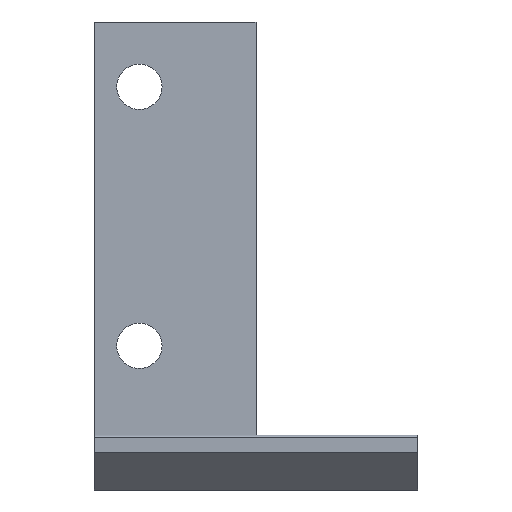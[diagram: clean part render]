
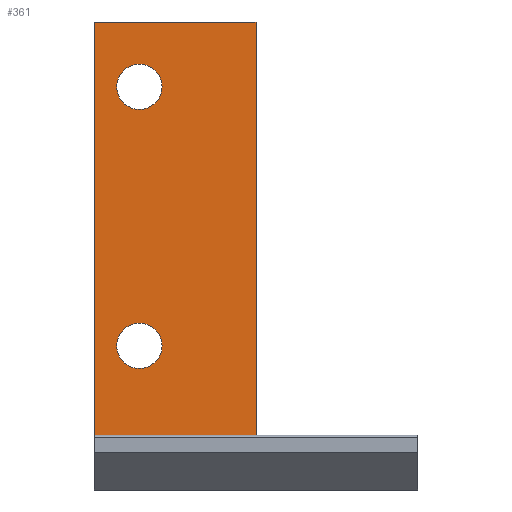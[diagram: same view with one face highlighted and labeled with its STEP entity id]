
A CAD part, left-side view. The second image highlights one B-rep face of the part: STEP entity #361.
In plain terms, the highlighted planar face has unit normal (-1, 0, 0).
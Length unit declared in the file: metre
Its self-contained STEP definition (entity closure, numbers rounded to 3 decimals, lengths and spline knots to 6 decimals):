
#27=CIRCLE('',#404,0.00175);
#28=CIRCLE('',#405,0.00175);
#93=ORIENTED_EDGE('',*,*,#164,.F.);
#94=ORIENTED_EDGE('',*,*,#165,.F.);
#95=ORIENTED_EDGE('',*,*,#130,.F.);
#96=ORIENTED_EDGE('',*,*,#160,.F.);
#97=ORIENTED_EDGE('',*,*,#166,.T.);
#98=ORIENTED_EDGE('',*,*,#155,.T.);
#130=EDGE_CURVE('',#176,#177,#210,.T.);
#155=EDGE_CURVE('',#193,#177,#229,.T.);
#160=EDGE_CURVE('',#196,#176,#234,.T.);
#164=EDGE_CURVE('',#199,#199,#27,.T.);
#165=EDGE_CURVE('',#200,#200,#28,.T.);
#166=EDGE_CURVE('',#196,#193,#236,.T.);
#176=VERTEX_POINT('',#536);
#177=VERTEX_POINT('',#538);
#193=VERTEX_POINT('',#586);
#196=VERTEX_POINT('',#594);
#199=VERTEX_POINT('',#604);
#200=VERTEX_POINT('',#606);
#210=LINE('',#537,#242);
#229=LINE('',#585,#261);
#234=LINE('',#595,#266);
#236=LINE('',#607,#268);
#242=VECTOR('',#429,1.);
#261=VECTOR('',#474,1.);
#266=VECTOR('',#481,1.);
#268=VECTOR('',#495,1.);
#283=EDGE_LOOP('',(#93));
#284=EDGE_LOOP('',(#94));
#285=EDGE_LOOP('',(#95,#96,#97,#98));
#317=FACE_BOUND('',#283,.T.);
#318=FACE_BOUND('',#284,.T.);
#319=FACE_BOUND('',#285,.T.);
#347=PLANE('',#403);
#361=ADVANCED_FACE('',(#317,#318,#319),#347,.T.);
#403=AXIS2_PLACEMENT_3D('',#602,#489,#490);
#404=AXIS2_PLACEMENT_3D('',#603,#491,#492);
#405=AXIS2_PLACEMENT_3D('',#605,#493,#494);
#429=DIRECTION('',(0.,1.,0.));
#474=DIRECTION('',(0.,0.,-1.));
#481=DIRECTION('',(0.,0.,-1.));
#489=DIRECTION('',(-1.,0.,0.));
#490=DIRECTION('',(0.,-1.,0.));
#491=DIRECTION('',(-1.,0.,0.));
#492=DIRECTION('',(0.,-1.,0.));
#493=DIRECTION('',(-1.,0.,0.));
#494=DIRECTION('',(0.,-1.,0.));
#495=DIRECTION('',(0.,1.,0.));
#536=CARTESIAN_POINT('',(-0.00334,-0.0125,0.002093));
#537=CARTESIAN_POINT('',(-0.00334,-0.025,0.002093));
#538=CARTESIAN_POINT('',(-0.00334,0.,0.002093));
#585=CARTESIAN_POINT('',(-0.00334,0.,0.034));
#586=CARTESIAN_POINT('',(-0.00334,0.,0.034));
#594=CARTESIAN_POINT('',(-0.00334,-0.0125,0.034));
#595=CARTESIAN_POINT('',(-0.00334,-0.0125,0.034));
#602=CARTESIAN_POINT('',(-0.00334,-0.00625,0.034));
#603=CARTESIAN_POINT('',(-0.00334,-0.0035,0.029));
#604=CARTESIAN_POINT('',(-0.00334,-0.00525,0.029));
#605=CARTESIAN_POINT('',(-0.00334,-0.0035,0.009));
#606=CARTESIAN_POINT('',(-0.00334,-0.00525,0.009));
#607=CARTESIAN_POINT('',(-0.00334,-0.00625,0.034));
